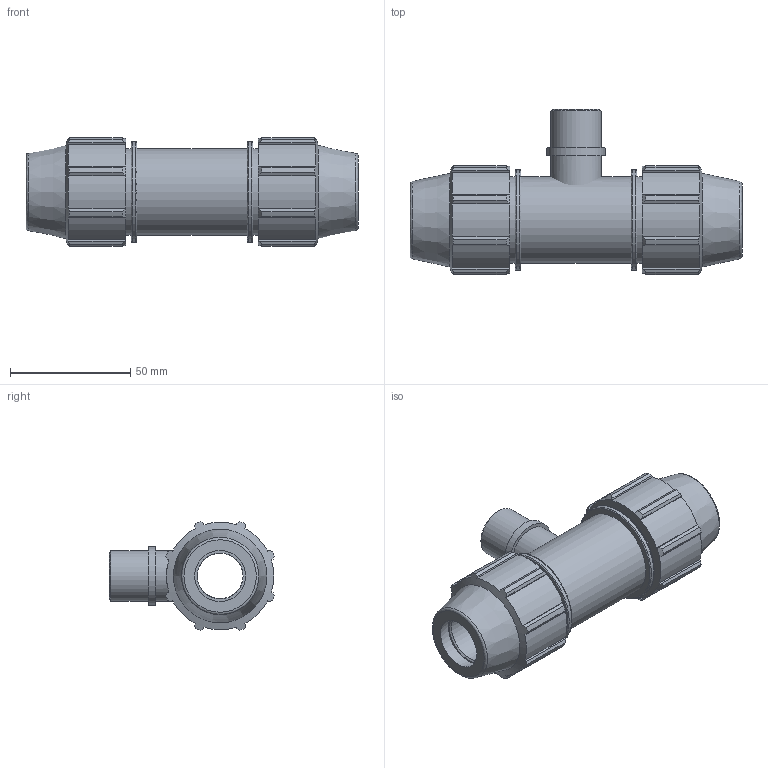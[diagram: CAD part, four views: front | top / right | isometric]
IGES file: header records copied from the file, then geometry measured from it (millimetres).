
Global section: file name: 0784M0005005.ipt; native system: Autodesk Inventor 2019; preprocessor: unknown; author: 12HКирилл; date: 20210826.124923; units: inch
Bounding box: 137.92 x 68.56 x 45.17 mm (x, y, z)
Volume: 127861.6 mm3; surface area: 36426.3 mm2
Topology: 2 solids, 2 shells, 158 faces, 443 edges, 300 vertices
Faces by surface type: plane 81, cylinder 40, cone 21, revolution 16
Full cylindrical faces by diameter (mm): 20.955 x2, 24.098 x1, 36.004 x3, 41.765 x2
